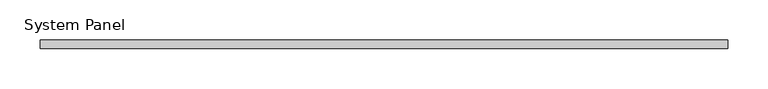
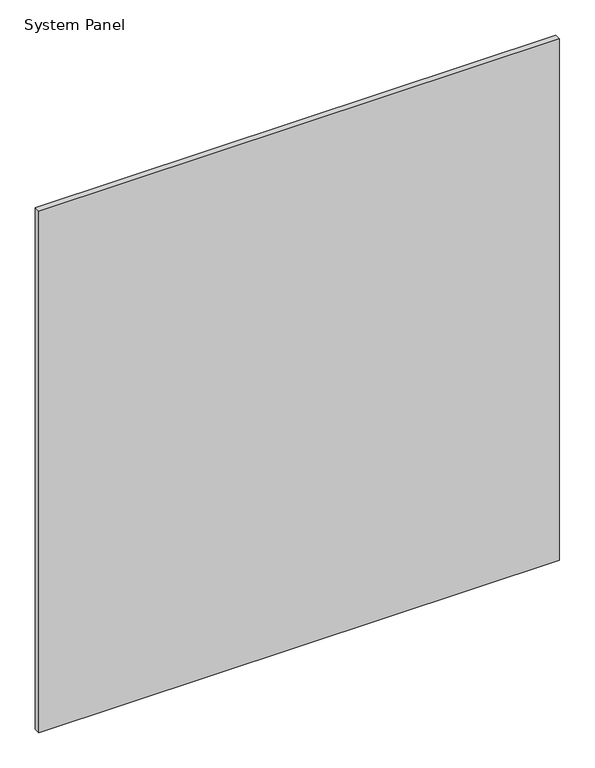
"""IFC4 building model written with IfcOpenShell, lengths in millimetres: plate geometry, System Panel : стекло_смещение_0."""

import ifcopenshell
import ifcopenshell.guid

model = None  # the IFC model being written
_history = None  # IfcOwnerHistory: only IFC2X3 demands one
_inside = {}  # id of a spatial element -> (the spatial element, [elements in it])
_under = {}  # id of a project, library or spatial element -> (it, [spatial elements below it])
_declared = {}  # id of a project -> (the project, [libraries it declares])
_typed = {}  # id of a type object -> (the type object, [elements of that type])
_made_of = {}  # id of a material, layer set ... -> (it, [elements and type objects made of it])


def new_model(schema):
    """Start an empty IFC model of exactly this schema.

    Asked for "IFC4X3", IfcOpenShell would pick the latest addendum, in which some entities
    have other attributes; the version numbers below select the first issue.
    IFC2X3 requires an IfcOwnerHistory on every rooted entity: one is made here for all.
    """
    global model, _history
    if schema == "IFC4X3":
        model = ifcopenshell.file(schema_version=(4, 3, 0, 0))
    else:
        model = ifcopenshell.file(schema=schema)
    _inside.clear()
    _under.clear()
    _declared.clear()
    _typed.clear()
    _made_of.clear()
    _history = None
    if model.schema == "IFC2X3":
        org = make("IfcOrganization", Name="unknown")
        user = make(
            "IfcPersonAndOrganization",
            ThePerson=make("IfcPerson", FamilyName="unknown"),
            TheOrganization=org,
        )
        app = make(
            "IfcApplication",
            ApplicationDeveloper=org,
            Version="unknown",
            ApplicationFullName="unknown",
            ApplicationIdentifier="unknown",
        )
        _history = make(
            "IfcOwnerHistory",
            OwningUser=user,
            OwningApplication=app,
            ChangeAction="ADDED",
            CreationDate=0,
        )
    return model


def make(cls, **values):
    """One entity of the class cls with the attributes given. An attribute that is None is left unset."""
    return model.create_entity(
        cls, **{name: value for name, value in values.items() if value is not None}
    )


def rooted(cls, **values):
    """An entity with a GlobalId (a new one), such as an element, a storey or a relation."""
    return make(cls, GlobalId=ifcopenshell.guid.new(), OwnerHistory=_history, **values)


def si_unit(unit_type, name, prefix=None):
    """IfcSIUnit, for example si_unit("LENGTHUNIT", "METRE", prefix="MILLI")."""
    return make("IfcSIUnit", UnitType=unit_type, Prefix=prefix, Name=name)


def assignment(units):
    """IfcUnitAssignment: the units of a project."""
    return None if units is None else make("IfcUnitAssignment", Units=units)


def point(xyz):
    """IfcCartesianPoint."""
    return None if xyz is None else make("IfcCartesianPoint", Coordinates=xyz)


def direction(xyz):
    """IfcDirection."""
    return None if xyz is None else make("IfcDirection", DirectionRatios=xyz)


def frame(location, z_axis=None, x_axis=None):
    """IfcAxis2Placement3D, a coordinate frame: its origin and axes. An axis left out is left unset."""
    return make(
        "IfcAxis2Placement3D",
        Location=point(location),
        Axis=direction(z_axis),
        RefDirection=direction(x_axis),
    )


def origin():
    """The frame at (0, 0, 0) with its axes left unset."""
    return frame((0.0, 0.0, 0.0))


def origin_with_axes():
    """The frame at (0, 0, 0) with the z axis (0, 0, 1) and the x axis (1, 0, 0) written out."""
    return frame((0.0, 0.0, 0.0), z_axis=(0.0, 0.0, 1.0), x_axis=(1.0, 0.0, 0.0))


def place(relative_to, where):
    """IfcLocalPlacement: puts the frame where relative to a parent placement (None: the world)."""
    return make(
        "IfcLocalPlacement", PlacementRelTo=relative_to, RelativePlacement=where
    )


def context(
    kind, dimensions, precision=None, world=None, true_north=None, identifier=None
):
    """IfcGeometricRepresentationContext, for example the 3D "Model" context."""
    return make(
        "IfcGeometricRepresentationContext",
        ContextIdentifier=identifier,
        ContextType=kind,
        CoordinateSpaceDimension=dimensions,
        Precision=precision,
        WorldCoordinateSystem=world,
        TrueNorth=true_north,
    )


def project(units=None, contexts=None):
    """IfcProject with its units and contexts."""
    return rooted(
        "IfcProject",
        Name="project",
        RepresentationContexts=contexts,
        UnitsInContext=assignment(units),
    )


def spatial(cls, under=None, at=None, **own):
    """A site, building, storey or space (cls), placed at a placement, below another one or the project."""
    s = rooted(cls, ObjectPlacement=at, **own)
    if under is not None:
        _under.setdefault(under.id(), (under, []))[1].append(s)
    return s


def polyline(points):
    """IfcPolyline through the points."""
    return make("IfcPolyline", Points=[point(p) for p in points])


def outline(outer, holes=None, kind="AREA"):
    """IfcArbitraryClosedProfileDef: a profile drawn as a closed curve; with holes, ...WithVoids."""
    if holes is None:
        return make("IfcArbitraryClosedProfileDef", ProfileType=kind, OuterCurve=outer)
    return make(
        "IfcArbitraryProfileDefWithVoids",
        ProfileType=kind,
        OuterCurve=outer,
        InnerCurves=holes,
    )


def extrude(swept, where, along, depth):
    """IfcExtrudedAreaSolid: the profile swept, set in the frame where, extruded along a direction by depth."""
    return make(
        "IfcExtrudedAreaSolid",
        SweptArea=swept,
        Position=where,
        ExtrudedDirection=direction(along),
        Depth=depth,
    )


def shape(context_of_items, identifier, shape_type, items):
    """IfcShapeRepresentation: the items that make up one representation, for example the "Body"."""
    return make(
        "IfcShapeRepresentation",
        ContextOfItems=context_of_items,
        RepresentationIdentifier=identifier,
        RepresentationType=shape_type,
        Items=items,
    )


def source(mapping_origin, context_of_items, identifier, shape_type, items):
    """IfcRepresentationMap: a shape defined once, which mapped items show again and again."""
    return make(
        "IfcRepresentationMap",
        MappingOrigin=mapping_origin,
        MappedRepresentation=shape(context_of_items, identifier, shape_type, items),
    )


def transform(
    local_origin,
    x_axis=None,
    y_axis=None,
    z_axis=None,
    scale=None,
    scale2=None,
    scale3=None,
    uniform=True,
):
    """IfcCartesianTransformationOperator3D, or its non-uniform kind. x_axis, y_axis, z_axis: its Axis1, 2, 3."""
    if uniform:
        return make(
            "IfcCartesianTransformationOperator3D",
            Axis1=direction(x_axis),
            Axis2=direction(y_axis),
            LocalOrigin=point(local_origin),
            Scale=scale,
            Axis3=direction(z_axis),
        )
    return make(
        "IfcCartesianTransformationOperator3DnonUniform",
        Axis1=direction(x_axis),
        Axis2=direction(y_axis),
        LocalOrigin=point(local_origin),
        Scale=scale,
        Axis3=direction(z_axis),
        Scale2=scale2,
        Scale3=scale3,
    )


def mapped(mapping_source, mapping_target):
    """IfcMappedItem: shows the shape of a source again, moved by a transform."""
    return make(
        "IfcMappedItem", MappingSource=mapping_source, MappingTarget=mapping_target
    )


def made_of(thing, what):
    """Note that an element or type object is made of a material, layer set ...; save() writes the relation."""
    if what is not None:
        _made_of.setdefault(what.id(), (what, []))[1].append(thing)
    return thing


def element(
    cls,
    number,
    at=None,
    inside=None,
    cuts=None,
    type_object=None,
    material=None,
    context=None,
    identifier="Body",
    shape_type=None,
    held_by="IfcProductDefinitionShape",
    body=None,
    shapes=None,
    **own,
):
    """One element of the class cls, such as IfcWall. Its Tag is "e" and its number.

    at: its placement. inside: the storey or other place that contains it. cuts: it is an
    opening in that element (IfcRelVoidsElement). A single representation is given by context,
    identifier, shape_type and body (its items); several are given by shapes. held_by: the class
    of the entity that holds the representations. save() writes the other relations.
    """
    e = rooted(cls, Tag="e%d" % number, ObjectPlacement=at, **own)
    if body is not None:
        shapes = [shape(context, identifier, shape_type, body)]
    if shapes is not None:
        e.Representation = make(held_by, Representations=shapes)
    if inside is not None:
        _inside.setdefault(inside.id(), (inside, []))[1].append(e)
    if cuts is not None:
        rooted(
            "IfcRelVoidsElement", RelatingBuildingElement=cuts, RelatedOpeningElement=e
        )
    if type_object is not None:
        _typed.setdefault(type_object.id(), (type_object, []))[1].append(e)
    return made_of(e, material)


def aggregate(whole, parts):
    """IfcRelAggregates: a whole, such as a stair, and the parts it consists of."""
    return rooted("IfcRelAggregates", RelatingObject=whole, RelatedObjects=parts)


def save(model, path):
    """Write the relations noted so far, then the file.

    IfcRelAggregates (storeys below a building ...), IfcRelContainedInSpatialStructure (elements
    in a storey), IfcRelDefinesByType, IfcRelAssociatesMaterial and IfcRelDeclares: one each for
    every whole, place, type object, material and project.
    """
    for whole, parts in _under.values():
        aggregate(whole, parts)
    for where, things in _inside.values():
        rooted(
            "IfcRelContainedInSpatialStructure",
            RelatedElements=things,
            RelatingStructure=where,
        )
    for kind, things in _typed.values():
        rooted("IfcRelDefinesByType", RelatedObjects=things, RelatingType=kind)
    for what, things in _made_of.values():
        rooted("IfcRelAssociatesMaterial", RelatedObjects=things, RelatingMaterial=what)
    for by, libraries in _declared.values():
        rooted("IfcRelDeclares", RelatingContext=by, RelatedDefinitions=libraries)
    model.write(path)


def system_panel_6eda9178(model_context):
    return source(origin(), model_context, "Body", "SweptSolid", [
        extrude(outline(polyline([(425.0, -5.0), (-425.0, -5.0), (-425.0, 5.0), (425.0, 5.0), (425.0, -5.0)])), origin_with_axes(), (0.0, 0.0, 1.0), 900.0),
    ])


if __name__ == "__main__":
    model = new_model("IFC4")
    model_context = context("Model", 3, world=origin())
    ifc_project = project(units=[si_unit("LENGTHUNIT", "METRE", prefix="MILLI")], contexts=[model_context])
    site = spatial("IfcSite", under=ifc_project)
    building = spatial("IfcBuilding", under=site)
    placement = place(None, origin())
    system_panel_shape = system_panel_6eda9178(model_context)
    element("IfcPlate", 1, ObjectType="System Panel : стекло_смещение_0", at=placement, inside=building, context=model_context, shape_type="MappedRepresentation", body=[
        mapped(system_panel_shape, transform((0.0, 0.0, 0.0), x_axis=(1.0, 0.0, 0.0), y_axis=(0.0, 1.0, 0.0), z_axis=(0.0, 0.0, 1.0))),
    ])
    save(model, "model.ifc")
